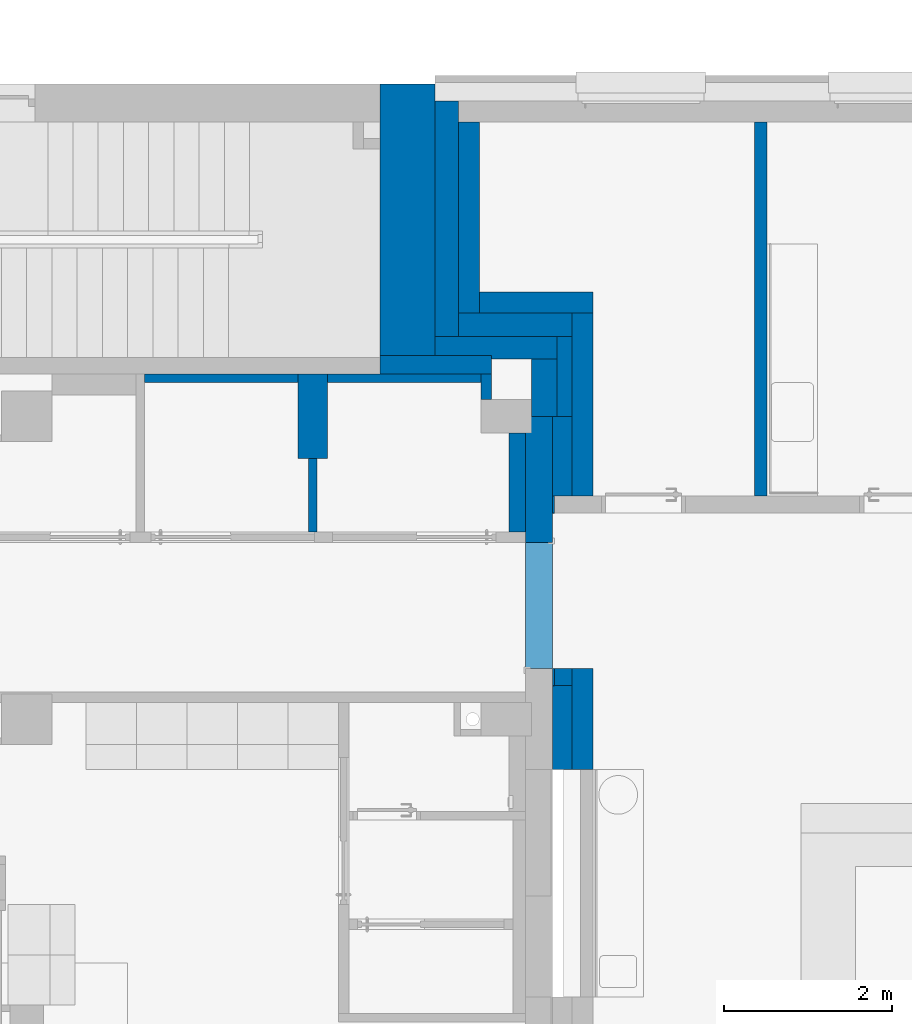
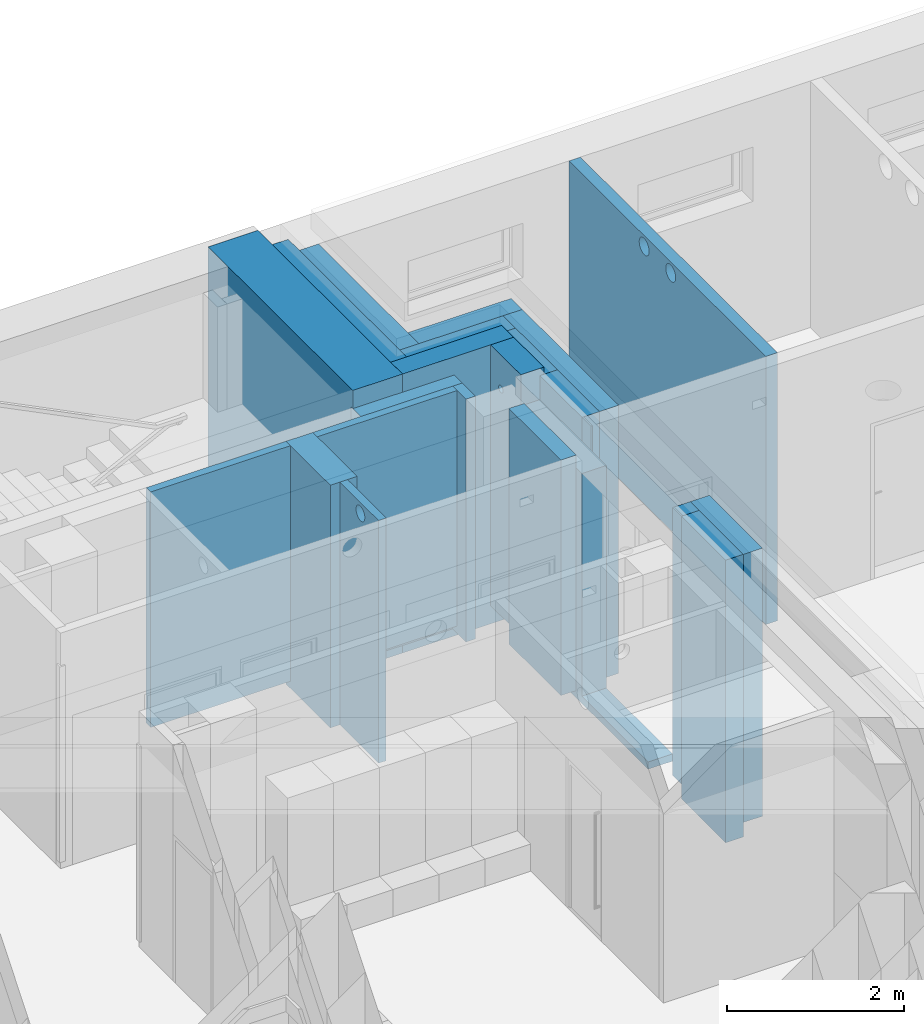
# One storey, part 54 of 140: 24 walls, 10 openings.
"""IFC4 building model written with IfcOpenShell, lengths in metres."""

from ifc_helpers import new_model, entity, si_unit, converted_unit, derived_unit, frame, frame_2d, origin, origin_with_axes, place, context, subcontext, project, spatial, polyline, rectangle, outline, extrude, material, layer, layer_set, layer_usage, element, save


model = new_model("IFC4")

# Units and contexts
model_context = context("Model", 3, precision=1e-05, world=origin())
body_context = subcontext(model_context, "Body", "Model", "MODEL_VIEW")
ifc_project = project(units=[si_unit("LENGTHUNIT", "METRE"), si_unit("AREAUNIT", "SQUARE_METRE"), si_unit("VOLUMEUNIT", "CUBIC_METRE"), si_unit("MASSUNIT", "GRAM", prefix="KILO"), converted_unit("PLANEANGLEUNIT", "DEGREE", entity("IfcPlaneAngleMeasure", 0.0174532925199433), si_unit("PLANEANGLEUNIT", "RADIAN"), dimensions=[0, 0, 0, 0, 0, 0, 0]), derived_unit("THERMALTRANSMITTANCEUNIT", [(si_unit("POWERUNIT", "WATT"), 1), (si_unit("THERMODYNAMICTEMPERATUREUNIT", "KELVIN"), -1), (si_unit("LENGTHUNIT", "METRE"), -2)]), derived_unit("VOLUMETRICFLOWRATEUNIT", [(si_unit("LENGTHUNIT", "METRE"), 3), (converted_unit("TIMEUNIT", "hour", entity("IfcTimeMeasure", 3600.0), si_unit("TIMEUNIT", "SECOND"), dimensions=[0, 0, 1, 0, 0, 0, 0]), -1), (si_unit("LENGTHUNIT", "METRE"), -1)])], contexts=[model_context])

# Site, building, storey
site_placement = place(None, origin())
site = spatial("IfcSite", under=ifc_project, at=site_placement, Name="3. ASŘ", CompositionType="ELEMENT")
building_placement = place(site_placement, origin())
building = spatial("IfcBuilding", under=site, at=building_placement, Name="Pavilon C", CompositionType="ELEMENT")
storey_placement = place(building_placement, origin())
storey = spatial("IfcBuildingStorey", under=building, at=storey_placement, Name="Půdorys 1.NP", CompositionType="ELEMENT", Elevation=0.0)

# Wall, opening
ifc_material_1 = material(Name="PLYNOSILIKÁT")
ifc_layer_1 = layer(ifc_material_1, 0.3)
ifc_layer_set_1 = layer_set([ifc_layer_1])
ifc_layer_usage_1 = layer_usage(ifc_layer_set_1, "AXIS2", "POSITIVE", 0.0)
wall_1_placement = place(storey_placement, frame((50.25, 28.8, -0.1), z_axis=(0.0, 0.0, 1.0), x_axis=(0.0, 1.0, 0.0)))
wall_1 = element("IfcWall", 1, at=wall_1_placement, inside=storey, material=ifc_layer_usage_1, Name="PLYNOSILIKÁT", context=body_context, shape_type="SweptSolid", body=[
    extrude(rectangle(XDim=0.68, YDim=0.3, at=frame_2d((0.34, 0.15), x_axis=(1.0, 0.0))), origin_with_axes(), (0.0, 0.0, 1.0), 3.6),
])
opening_1_placement = place(wall_1_placement, frame((0.400306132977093, 0.0, 3.08000000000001), z_axis=(0.0, 1.0, 0.0), x_axis=(0.0, 0.0, 1.0)))
element("IfcOpeningElement", 2, at=opening_1_placement, cuts=wall_1, Name="Prostup stěnou", ObjectType="Opening", context=body_context, shape_type="SweptSolid", body=[
    extrude(outline(polyline([(0.0499999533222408, 0.0), (0.0447735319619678, 0.000273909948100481), (0.0396043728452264, 0.00109262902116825), (0.0345491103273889, 0.00244718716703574), (0.0296631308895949, 0.00432274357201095), (0.0249999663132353, 0.00669874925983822), (0.0206107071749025, 0.00954917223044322), (0.016543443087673, 0.0128427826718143), (0.0128427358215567, 0.0165434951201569), (0.00954913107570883, 0.0206107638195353), (0.00669871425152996, 0.0250000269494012), (0.00432271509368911, 0.0296631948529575), (0.00244716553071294, 0.0345491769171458), (0.00109261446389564, 0.0396044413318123), (0.000273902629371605, 0.0447736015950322), (0.0, 0.0500000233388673), (0.000273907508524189, 0.0552264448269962), (0.00109262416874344, 0.0603956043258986), (0.00244717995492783, 0.0654508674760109), (0.0043227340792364, 0.0703368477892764), (0.00669873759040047, 0.0750000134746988), (0.00954915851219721, 0.0793892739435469), (0.0128427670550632, 0.0834565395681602), (0.0165434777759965, 0.0871572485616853), (0.0206107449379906, 0.0904508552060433), (0.025000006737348, 0.0933012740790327), (0.0296631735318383, 0.0956772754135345), (0.0345491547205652, 0.0975528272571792), (0.0396044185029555, 0.0989073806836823), (0.0447735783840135, 0.0997260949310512), (0.0499999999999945, 0.1), (0.0552264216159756, 0.0997260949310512), (0.0603955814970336, 0.0989073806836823), (0.0654508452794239, 0.0975528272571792), (0.0703368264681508, 0.0956772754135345), (0.0749999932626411, 0.0933012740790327), (0.0793892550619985, 0.0904508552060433), (0.0834565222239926, 0.0871572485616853), (0.0871572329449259, 0.0834565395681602), (0.0904508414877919, 0.0793892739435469), (0.0933012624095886, 0.0750000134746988), (0.0956772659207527, 0.0703368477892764), (0.0975528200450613, 0.0654508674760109), (0.0989073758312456, 0.0603956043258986), (0.0997260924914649, 0.0552264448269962), (0.0999999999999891, 0.0500000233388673), (0.0997260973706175, 0.0447736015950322), (0.0989073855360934, 0.0396044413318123), (0.0975528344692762, 0.0345491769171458), (0.0956772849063, 0.0296631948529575), (0.0933012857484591, 0.0250000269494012), (0.0904508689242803, 0.0206107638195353), (0.0871572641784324, 0.0165434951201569), (0.083456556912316, 0.0128427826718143), (0.0793892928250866, 0.00954917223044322), (0.0750000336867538, 0.00669874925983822), (0.0703368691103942, 0.00432274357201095), (0.0654508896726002, 0.00244718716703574), (0.0603956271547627, 0.00109262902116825), (0.0552264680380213, 0.000273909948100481), (0.0499999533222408, 0.0)])), origin_with_axes(), (0.0, 0.0, 1.0), 0.3),
])

# Walls
ifc_material_2 = material(Name="ZDIVO Z CDm")
ifc_layer_2 = layer(ifc_material_2, 0.22)
ifc_layer_set_2 = layer_set([ifc_layer_2])
ifc_layer_usage_2 = layer_usage(ifc_layer_set_2, "AXIS2", "POSITIVE", 0.0)
wall_2_placement = place(storey_placement, frame((48.15, 29.3, -0.1)))
element("IfcWall", 3, at=wall_2_placement, inside=storey, material=ifc_layer_usage_2, Name="ZDIVO Z CDm", context=body_context, shape_type="SweptSolid", body=[
    extrude(rectangle(XDim=1.325, YDim=0.22, at=frame_2d((0.6625, 0.11), x_axis=(1.0, 0.0))), origin_with_axes(), (0.0, 0.0, 1.0), 3.35),
])
ifc_material_3 = material(Name="ZDIVO Z CDm")
ifc_layer_3 = layer(ifc_material_3, 0.125)
ifc_layer_set_3 = layer_set([ifc_layer_3])
ifc_layer_usage_3 = layer_usage(ifc_layer_set_3, "AXIS2", "POSITIVE", 0.0)
wall_3_placement = place(storey_placement, frame((49.35, 29.3, -0.1), z_axis=(0.0, 0.0, 1.0), x_axis=(0.0, -1.0, 0.0)))
element("IfcWall", 4, at=wall_3_placement, inside=storey, material=ifc_layer_usage_3, Name="ZDIVO Z CDm", context=body_context, shape_type="SweptSolid", body=[
    extrude(rectangle(XDim=0.299999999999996, YDim=0.125, at=frame_2d((0.149999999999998, 0.0625), x_axis=(1.0, 0.0))), origin_with_axes(), (0.0, 0.0, 1.0), 3.35),
])
ifc_material_4 = material(Name="ZELEZOBETONOVÁ KCE")
ifc_layer_4 = layer(ifc_material_4, 0.649999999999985)
ifc_layer_set_4 = layer_set([ifc_layer_4])
ifc_layer_usage_4 = layer_usage(ifc_layer_set_4, "AXIS2", "POSITIVE", 0.0)
wall_4_placement = place(storey_placement, frame((48.15, 32.75, -0.35), z_axis=(0.0, 0.0, 1.0), x_axis=(2.22506349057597e-15, -1.0, 0.0)))
element("IfcWall", 5, at=wall_4_placement, inside=storey, material=ifc_layer_usage_4, Name="ZELEZOBETONOVÁ KCE", context=body_context, shape_type="SweptSolid", body=[
    extrude(rectangle(XDim=3.27, YDim=0.649999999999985, at=frame_2d((1.635, 0.324999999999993), x_axis=(1.0, 0.0))), origin_with_axes(), (0.0, 0.0, 1.0), 3.85),
])

# Wall, openings
ifc_material_5 = material(Name="ZELEZOBETONOVÁ KCE")
ifc_layer_5 = layer(ifc_material_5, 0.32)
ifc_layer_set_5 = layer_set([ifc_layer_5])
ifc_layer_usage_5 = layer_usage(ifc_layer_set_5, "AXIS2", "POSITIVE", 0.0)
wall_5_placement = place(storey_placement, frame((50.2, 25.8, -0.1), z_axis=(0.0, 0.0, 1.0), x_axis=(0.0, 1.0, 0.0)))
wall_5 = element("IfcWall", 6, at=wall_5_placement, inside=storey, material=ifc_layer_usage_5, Name="ZELEZOBETONOVÁ KCE", context=body_context, shape_type="SweptSolid", body=[
    extrude(rectangle(XDim=3.00000000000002, YDim=0.32, at=frame_2d((1.50000000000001, 0.16), x_axis=(1.0, 0.0))), origin_with_axes(), (0.0, 0.0, 1.0), 3.17),
])
opening_2_placement = place(wall_5_placement, frame((0.0, 0.0, 0.1), z_axis=(0.0, 1.0, 0.0), x_axis=(0.0, 0.0, 1.0)))
element("IfcOpeningElement", 7, at=opening_2_placement, cuts=wall_5, Name="Dveřní otvor", ObjectType="Opening", context=body_context, shape_type="SweptSolid", body=[
    extrude(outline(polyline([(0.0, 1.5), (3.07, 1.5), (3.07, 0.0), (0.0, 0.0), (0.0, 1.5)])), origin_with_axes(), (0.0, 0.0, 1.0), 0.32),
])
opening_3_placement = place(wall_5_placement, frame((2.70000000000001, 0.32, 0.45), z_axis=(0.0, -1.0, 0.0), x_axis=(0.0, 0.0, 1.0)))
element("IfcOpeningElement", 8, at=opening_3_placement, cuts=wall_5, Name="Stěnová nika", ObjectType="Opening", context=body_context, shape_type="SweptSolid", body=[
    extrude(outline(polyline([(0.0, 0.1), (0.25, 0.1), (0.25, 0.0), (0.0, 0.0), (0.0, 0.1)])), origin_with_axes(), (0.0, 0.0, 1.0), 0.32),
])

# Walls
ifc_material_6 = material(Name="ZELEZOBETONOVÁ KCE")
ifc_layer_6 = layer(ifc_material_6, 0.27)
ifc_layer_set_6 = layer_set([ifc_layer_6])
ifc_layer_usage_6 = layer_usage(ifc_layer_set_6, "AXIS2", "POSITIVE", 0.0)
wall_6_placement = place(storey_placement, frame((48.8, 29.48, -0.35)))
element("IfcWall", 9, at=wall_6_placement, inside=storey, material=ifc_layer_usage_6, Name="ZELEZOBETONOVÁ KCE", context=body_context, shape_type="SweptSolid", body=[
    extrude(rectangle(XDim=1.45000000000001, YDim=0.27, at=frame_2d((0.725000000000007, 0.135), x_axis=(1.0, 0.0))), origin_with_axes(), (0.0, 0.0, 1.0), 3.85),
])
ifc_material_7 = material(Name="ZELEZOBETONOVÁ KCE")
ifc_layer_7 = layer(ifc_material_7, 0.25)
ifc_layer_set_7 = layer_set([ifc_layer_7])
ifc_layer_usage_7 = layer_usage(ifc_layer_set_7, "AXIS2", "POSITIVE", -0.125)
wall_7_placement = place(storey_placement, frame((50.68, 24.6, -0.3), z_axis=(0.0, 0.0, 1.0), x_axis=(0.0, 1.0, 0.0)))
element("IfcWall", 10, at=wall_7_placement, inside=storey, material=ifc_layer_usage_7, Name="ZELEZOBETONOVÁ KCE", context=body_context, shape_type="SweptSolid", body=[
    extrude(rectangle(XDim=1.2, YDim=0.25, at=frame_2d((0.6, 0.125), x_axis=(1.0, 0.0))), origin_with_axes(), (0.0, 0.0, 1.0), 3.7),
])

# Wall, openings
ifc_material_8 = material(Name="ZELEZOBETONOVÁ KCE")
ifc_layer_8 = layer(ifc_material_8, 0.25)
ifc_layer_set_8 = layer_set([ifc_layer_8])
ifc_layer_usage_8 = layer_usage(ifc_layer_set_8, "AXIS2", "POSITIVE", -0.125)
wall_8_placement = place(storey_placement, frame((50.68, 27.85, -0.3), z_axis=(0.0, 0.0, 1.0), x_axis=(0.0, 1.0, 0.0)))
wall_8 = element("IfcWall", 11, at=wall_8_placement, inside=storey, material=ifc_layer_usage_8, Name="ZELEZOBETONOVÁ KCE", context=body_context, shape_type="SweptSolid", body=[
    extrude(rectangle(XDim=2.18, YDim=0.25, at=frame_2d((1.09, 0.125), x_axis=(1.0, 0.0))), origin_with_axes(), (0.0, 0.0, 1.0), 3.7),
])
opening_4_placement = place(wall_8_placement, frame((0.529999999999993, 0.0, 0.0), z_axis=(0.0, 1.0, 0.0), x_axis=(0.0, 0.0, 1.0)))
element("IfcOpeningElement", 12, at=opening_4_placement, cuts=wall_8, Name="Stěnová nika", ObjectType="Opening", context=body_context, shape_type="SweptSolid", body=[
    extrude(outline(polyline([(0.0, 1.37), (1.21, 1.37), (1.21, 0.0), (0.0, 0.0), (0.0, 1.37)])), origin_with_axes(), (0.0, 0.0, 1.0), 0.14),
])
opening_5_placement = place(wall_8_placement, frame((0.649999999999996, 0.25, 0.65), z_axis=(0.0, -1.0, 0.0), x_axis=(0.0, 0.0, 1.0)))
element("IfcOpeningElement", 13, at=opening_5_placement, cuts=wall_8, Name="UT", ObjectType="Opening", context=body_context, shape_type="SweptSolid", body=[
    extrude(outline(polyline([(0.0, 0.1), (0.25, 0.1), (0.25, 0.0), (0.0, 0.0), (0.0, 0.1)])), origin_with_axes(), (0.0, 0.0, 1.0), 0.11),
])
opening_6_placement = place(wall_8_placement, frame((1.35030613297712, 7.27595761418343e-15, 3.28000000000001), z_axis=(0.0, 1.0, 0.0), x_axis=(0.0, 0.0, 1.0)))
element("IfcOpeningElement", 14, at=opening_6_placement, cuts=wall_8, Name="ZTI", ObjectType="Opening", context=body_context, shape_type="SweptSolid", body=[
    extrude(outline(polyline([(0.0499999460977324, 0.0), (0.0447735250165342, 0.000273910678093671), (0.0396043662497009, 0.00109263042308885), (0.0345491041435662, 0.00244718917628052), (0.0296631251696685, 0.00432274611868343), (0.0249999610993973, 0.00669875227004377), (0.0206107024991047, 0.00954917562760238), (0.0165434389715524, 0.0128427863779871), (0.0128427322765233, 0.0165434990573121), (0.00954912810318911, 0.0206107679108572), (0.00669871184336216, 0.0250000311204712), (0.00432271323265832, 0.0296631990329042), (0.00244716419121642, 0.0345491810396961), (0.00109261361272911, 0.039604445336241), (0.000273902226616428, 0.0447736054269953), (0.0, 0.0500000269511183), (0.000273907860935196, 0.0552264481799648), (0.0010926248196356, 0.0603956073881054), (0.00244718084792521, 0.0654508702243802), (0.00432273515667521, 0.0703368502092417), (0.00669873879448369, 0.0750000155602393), (0.00954915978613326, 0.0793892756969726), (0.0128427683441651, 0.0834565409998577), (0.0165434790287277, 0.0871572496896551), (0.0206107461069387, 0.0904508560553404), (0.0250000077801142, 0.0933012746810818), (0.0296631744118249, 0.0956772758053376), (0.0345491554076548, 0.0975528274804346), (0.0396044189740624, 0.0989073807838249), (0.0447735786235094, 0.0997260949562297), (0.0499999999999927, 0.1), (0.0552264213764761, 0.0997260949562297), (0.0603955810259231, 0.0989073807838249), (0.0654508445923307, 0.0975528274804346), (0.0703368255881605, 0.0956772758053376), (0.0749999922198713, 0.0933012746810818), (0.0793892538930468, 0.0904508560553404), (0.0834565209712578, 0.0871572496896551), (0.0871572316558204, 0.0834565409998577), (0.0904508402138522, 0.0793892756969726), (0.0933012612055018, 0.0750000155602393), (0.0956772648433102, 0.0703368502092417), (0.0975528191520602, 0.0654508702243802), (0.0989073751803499, 0.0603956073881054), (0.0997260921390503, 0.0552264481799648), (0.0999999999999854, 0.0500000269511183), (0.099726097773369, 0.0447736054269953), (0.0989073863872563, 0.039604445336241), (0.097552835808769, 0.0345491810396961), (0.0956772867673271, 0.0296631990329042), (0.0933012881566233, 0.0250000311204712), (0.0904508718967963, 0.0206107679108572), (0.0871572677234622, 0.0165434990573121), (0.083456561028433, 0.0128427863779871), (0.0793892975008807, 0.00954917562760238), (0.0750000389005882, 0.00669875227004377), (0.0703368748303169, 0.00432274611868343), (0.0654508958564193, 0.00244718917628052), (0.0603956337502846, 0.00109263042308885), (0.0552264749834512, 0.000273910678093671), (0.0499999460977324, 0.0)])), origin_with_axes(), (0.0, 0.0, 1.0), 0.43),
])

# Walls
ifc_material_9 = material(Name="ZELEZOBETONOVÁ KCE")
ifc_layer_9 = layer(ifc_material_9, 0.25)
ifc_layer_set_9 = layer_set([ifc_layer_9])
ifc_layer_usage_9 = layer_usage(ifc_layer_set_9, "AXIS2", "POSITIVE", -0.125)
wall_9_placement = place(storey_placement, frame((50.68, 30.28, -0.3), z_axis=(0.0, 0.0, 1.0), x_axis=(-1.0, 0.0, 0.0)))
element("IfcWall", 15, at=wall_9_placement, inside=storey, material=ifc_layer_usage_9, Name="ZELEZOBETONOVÁ KCE", context=body_context, shape_type="SweptSolid", body=[
    extrude(rectangle(XDim=1.35, YDim=0.25, at=frame_2d((0.675, 0.125), x_axis=(1.0, 0.0))), origin_with_axes(), (0.0, 0.0, 1.0), 3.7),
])
ifc_material_10 = material(Name="ZELEZOBETONOVÁ KCE")
ifc_layer_10 = layer(ifc_material_10, 0.25)
ifc_layer_set_10 = layer_set([ifc_layer_10])
ifc_layer_usage_10 = layer_usage(ifc_layer_set_10, "AXIS2", "POSITIVE", -0.125)
wall_10_placement = place(storey_placement, frame((49.33, 30.03, -0.3), z_axis=(0.0, 0.0, 1.0), x_axis=(0.0, 1.0, 0.0)))
element("IfcWall", 16, at=wall_10_placement, inside=storey, material=ifc_layer_usage_10, Name="ZELEZOBETONOVÁ KCE", context=body_context, shape_type="SweptSolid", body=[
    extrude(rectangle(XDim=2.27, YDim=0.25, at=frame_2d((1.135, 0.125), x_axis=(1.0, 0.0))), origin_with_axes(), (0.0, 0.0, 1.0), 3.7),
])
ifc_material_11 = material(Name="ZELEZOBETONOVÁ KCE")
ifc_layer_11 = layer(ifc_material_11, 0.2)
ifc_layer_set_11 = layer_set([ifc_layer_11])
ifc_layer_usage_11 = layer_usage(ifc_layer_set_11, "AXIS2", "POSITIVE", 0.0)
wall_11_placement = place(storey_placement, frame((50.43, 25.8, -0.3), z_axis=(0.0, 0.0, 1.0), x_axis=(-1.0, 0.0, 0.0)))
element("IfcWall", 17, at=wall_11_placement, inside=storey, material=ifc_layer_usage_11, Name="ZELEZOBETONOVÁ KCE", context=body_context, shape_type="SweptSolid", body=[
    extrude(rectangle(XDim=0.21, YDim=0.2, at=frame_2d((0.105, 0.1), x_axis=(1.0, 0.0))), origin_with_axes(), (0.0, 0.0, 1.0), 3.7),
])
ifc_material_12 = material(Name="EPS")
ifc_layer_12 = layer(ifc_material_12, 0.02)
ifc_layer_set_12 = layer_set([ifc_layer_12])
ifc_layer_usage_12 = layer_usage(ifc_layer_set_12, "AXIS2", "POSITIVE", 0.0)
wall_12_placement = place(storey_placement, frame((50.22, 27.65, -0.3), z_axis=(0.0, 0.0, 1.0), x_axis=(0.0, 1.0, 0.0)))
element("IfcWall", 18, at=wall_12_placement, inside=storey, material=ifc_layer_usage_12, Name="EPS", context=body_context, shape_type="SweptSolid", body=[
    extrude(rectangle(XDim=0.2, YDim=0.02, at=frame_2d((0.1, 0.01), x_axis=(1.0, 0.0))), origin_with_axes(), (0.0, 0.0, 1.0), 3.7),
])
ifc_material_13 = material(Name="EPS")
ifc_layer_13 = layer(ifc_material_13, 0.28)
ifc_layer_set_13 = layer_set([ifc_layer_13])
ifc_layer_usage_13 = layer_usage(ifc_layer_set_13, "AXIS2", "POSITIVE", 0.0)
wall_13_placement = place(storey_placement, frame((49.08, 29.75, -0.5), z_axis=(0.0, 0.0, 1.0), x_axis=(0.0, 1.0, 0.0)))
element("IfcWall", 19, at=wall_13_placement, inside=storey, material=ifc_layer_usage_13, Name="EPS", context=body_context, shape_type="SweptSolid", body=[
    extrude(rectangle(XDim=2.8, YDim=0.28, at=frame_2d((1.4, 0.14), x_axis=(1.0, 0.0))), origin_with_axes(), (0.0, 0.0, 1.0), 3.9),
])
ifc_material_14 = material(Name="EPS")
ifc_layer_14 = layer(ifc_material_14, 0.28)
ifc_layer_set_14 = layer_set([ifc_layer_14])
ifc_layer_usage_14 = layer_usage(ifc_layer_set_14, "AXIS2", "POSITIVE", 0.0)
wall_14_placement = place(storey_placement, frame((50.43, 30.03, -0.5), z_axis=(0.0, 0.0, 1.0), x_axis=(-1.0, 0.0, 0.0)))
element("IfcWall", 20, at=wall_14_placement, inside=storey, material=ifc_layer_usage_14, Name="EPS", context=body_context, shape_type="SweptSolid", body=[
    extrude(rectangle(XDim=1.35, YDim=0.28, at=frame_2d((0.675, 0.14), x_axis=(1.0, 0.0))), origin_with_axes(), (0.0, 0.0, 1.0), 3.9),
])
ifc_material_15 = material(Name="EPS")
ifc_layer_15 = layer(ifc_material_15, 0.18)
ifc_layer_set_15 = layer_set([ifc_layer_15])
ifc_layer_usage_15 = layer_usage(ifc_layer_set_15, "AXIS2", "POSITIVE", 0.0)
wall_15_placement = place(storey_placement, frame((50.43, 28.8, -0.5), z_axis=(0.0, 0.0, 1.0), x_axis=(0.0, 1.0, 0.0)))
element("IfcWall", 21, at=wall_15_placement, inside=storey, material=ifc_layer_usage_15, Name="EPS", context=body_context, shape_type="SweptSolid", body=[
    extrude(rectangle(XDim=0.95, YDim=0.18, at=frame_2d((0.475, 0.09), x_axis=(1.0, 0.0))), origin_with_axes(), (0.0, 0.0, 1.0), 3.9),
])

# Wall, opening
ifc_material_16 = material(Name="EPS")
ifc_layer_16 = layer(ifc_material_16, 0.23)
ifc_layer_set_16 = layer_set([ifc_layer_16])
ifc_layer_usage_16 = layer_usage(ifc_layer_set_16, "AXIS2", "POSITIVE", 0.0)
wall_16_placement = place(storey_placement, frame((50.43, 27.85, -0.5), z_axis=(0.0, 0.0, 1.0), x_axis=(0.0, 1.0, 0.0)))
wall_16 = element("IfcWall", 22, at=wall_16_placement, inside=storey, material=ifc_layer_usage_16, Name="EPS", context=body_context, shape_type="SweptSolid", body=[
    extrude(rectangle(XDim=0.950000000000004, YDim=0.23, at=frame_2d((0.475000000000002, 0.115), x_axis=(1.0, 0.0))), origin_with_axes(), (0.0, 0.0, 1.0), 3.9),
])
opening_7_placement = place(wall_16_placement, frame((0.649999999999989, 0.23, 0.85), z_axis=(0.0, -1.0, 0.0), x_axis=(0.0, 0.0, 1.0)))
element("IfcOpeningElement", 23, at=opening_7_placement, cuts=wall_16, Name="UT", ObjectType="Opening", context=body_context, shape_type="SweptSolid", body=[
    extrude(outline(polyline([(0.0, 0.1), (0.25, 0.1), (0.25, 0.0), (0.0, 0.0), (0.0, 0.1)])), origin_with_axes(), (0.0, 0.0, 1.0), 0.23),
])

# Walls
ifc_material_17 = material(Name="EPS")
ifc_layer_17 = layer(ifc_material_17, 0.23)
ifc_layer_set_17 = layer_set([ifc_layer_17])
ifc_layer_usage_17 = layer_usage(ifc_layer_set_17, "AXIS2", "POSITIVE", 0.0)
wall_17_placement = place(storey_placement, frame((50.43, 24.6, -0.5), z_axis=(0.0, 0.0, 1.0), x_axis=(0.0, 1.0, 0.0)))
element("IfcWall", 24, at=wall_17_placement, inside=storey, material=ifc_layer_usage_17, Name="EPS", context=body_context, shape_type="SweptSolid", body=[
    extrude(rectangle(XDim=1.0, YDim=0.23, at=frame_2d((0.5, 0.115), x_axis=(1.0, 0.0))), origin_with_axes(), (0.0, 0.0, 1.0), 3.9),
])
ifc_material_18 = material(Name="EPS")
ifc_layer_18 = layer(ifc_material_18, 0.02)
ifc_layer_set_18 = layer_set([ifc_layer_18])
ifc_layer_usage_18 = layer_usage(ifc_layer_set_18, "AXIS2", "POSITIVE", 0.0)
wall_18_placement = place(storey_placement, frame((50.22, 25.6, -0.3), z_axis=(0.0, 0.0, 1.0), x_axis=(0.0, 1.0, 0.0)))
element("IfcWall", 25, at=wall_18_placement, inside=storey, material=ifc_layer_usage_18, Name="EPS", context=body_context, shape_type="SweptSolid", body=[
    extrude(rectangle(XDim=0.2, YDim=0.02, at=frame_2d((0.1, 0.01), x_axis=(1.0, 0.0))), origin_with_axes(), (0.0, 0.0, 1.0), 3.7),
])

# Wall, openings
ifc_material_19 = material(Name="SDK - 1 KCE + DVOJITÉ OPLÁŠTĚNÍ")
ifc_layer_19 = layer(ifc_material_19, 0.15)
ifc_layer_set_19 = layer_set([ifc_layer_19])
ifc_layer_usage_19 = layer_usage(ifc_layer_set_19, "AXIS2", "POSITIVE", 0.0)
wall_19_placement = place(storey_placement, frame((52.75, 27.85, -0.3), z_axis=(0.0, 0.0, 1.0), x_axis=(0.0, 1.0, 0.0)))
wall_19 = element("IfcWall", 26, at=wall_19_placement, inside=storey, material=ifc_layer_usage_19, Name="SDK - 1 KCE + DVOJITÉ OPLÁŠTĚNÍ", context=body_context, shape_type="SweptSolid", body=[
    extrude(rectangle(XDim=4.45, YDim=0.15, at=frame_2d((2.225, 0.075), x_axis=(1.0, 0.0))), origin_with_axes(), (0.0, 0.0, 1.0), 3.7),
])
opening_8_placement = place(wall_19_placement, frame((2.6375, 0.0, 3.43750000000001), z_axis=(0.0, 1.0, 0.0), x_axis=(0.0, 0.0, 1.0)))
element("IfcOpeningElement", 27, at=opening_8_placement, cuts=wall_19, Name="VZT", ObjectType="Opening", context=body_context, shape_type="SweptSolid", body=[
    extrude(outline(polyline([(0.112499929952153, 0.0), (0.100740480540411, 0.000616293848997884), (0.0891098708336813, 0.00245840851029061), (0.077735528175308, 0.00550616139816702), (0.0667420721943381, 0.00972616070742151), (0.0562499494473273, 0.0150721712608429), (0.0463741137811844, 0.0214856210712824), (0.0372227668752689, 0.0288962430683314), (0.0288961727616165, 0.0372228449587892), (0.0214855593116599, 0.0463741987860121), (0.0150721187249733, 0.0562500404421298), (0.00972611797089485, 0.0667421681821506), (0.00550612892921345, 0.0777356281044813), (0.00245838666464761, 0.0891099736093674), (0.000616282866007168, 0.100740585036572), (0.0, 0.11250003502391), (0.000616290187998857, 0.124259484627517), (0.00245840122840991, 0.135890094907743), (0.00550615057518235, 0.147264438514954), (0.00972614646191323, 0.158257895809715), (0.0150721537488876, 0.168750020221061), (0.0214856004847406, 0.178625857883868), (0.0288962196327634, 0.187777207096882), (0.0372228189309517, 0.196103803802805), (0.0463741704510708, 0.203514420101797), (0.0562500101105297, 0.209927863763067), (0.0667421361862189, 0.215273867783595), (0.0777355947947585, 0.2194938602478), (0.0891099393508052, 0.22254160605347), (0.10074055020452, 0.224383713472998), (0.112499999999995, 0.225), (0.124259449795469, 0.224383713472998), (0.135890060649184, 0.22254160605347), (0.147264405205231, 0.2194938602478), (0.15825786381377, 0.215273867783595), (0.168749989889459, 0.209927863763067), (0.178625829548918, 0.203514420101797), (0.187777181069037, 0.196103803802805), (0.196103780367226, 0.187777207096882), (0.203514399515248, 0.178625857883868), (0.209927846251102, 0.168750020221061), (0.215273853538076, 0.158257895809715), (0.219493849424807, 0.147264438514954), (0.222541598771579, 0.135890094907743), (0.22438370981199, 0.124259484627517), (0.224999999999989, 0.11250003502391), (0.224383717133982, 0.100740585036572), (0.222541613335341, 0.0891099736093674), (0.219493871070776, 0.0777356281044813), (0.215273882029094, 0.0667421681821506), (0.209927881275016, 0.0562500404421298), (0.203514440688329, 0.0463741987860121), (0.196103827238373, 0.0372228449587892), (0.18777723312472, 0.0288962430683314), (0.178625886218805, 0.0214856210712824), (0.168750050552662, 0.0150721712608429), (0.158257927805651, 0.00972616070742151), (0.147264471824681, 0.00550616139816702), (0.135890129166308, 0.00245840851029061), (0.124259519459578, 0.000616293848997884), (0.112499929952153, 0.0)])), origin_with_axes(), (0.0, 0.0, 1.0), 0.15),
])
opening_9_placement = place(wall_19_placement, frame((2.0375, 0.0, 3.43750000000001), z_axis=(0.0, 1.0, 0.0), x_axis=(0.0, 0.0, 1.0)))
element("IfcOpeningElement", 28, at=opening_9_placement, cuts=wall_19, Name="VZT", ObjectType="Opening", context=body_context, shape_type="SweptSolid", body=[
    extrude(outline(polyline([(0.112499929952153, 0.0), (0.100740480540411, 0.000616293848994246), (0.0891098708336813, 0.00245840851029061), (0.077735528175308, 0.00550616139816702), (0.0667420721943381, 0.00972616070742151), (0.0562499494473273, 0.0150721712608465), (0.0463741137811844, 0.0214856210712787), (0.0372227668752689, 0.028896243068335), (0.0288961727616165, 0.0372228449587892), (0.0214855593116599, 0.0463741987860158), (0.0150721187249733, 0.0562500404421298), (0.00972611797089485, 0.0667421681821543), (0.00550612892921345, 0.0777356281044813), (0.00245838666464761, 0.0891099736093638), (0.000616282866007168, 0.100740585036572), (0.0, 0.11250003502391), (0.000616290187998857, 0.124259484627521), (0.00245840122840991, 0.135890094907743), (0.00550615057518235, 0.147264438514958), (0.00972614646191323, 0.158257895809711), (0.0150721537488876, 0.168750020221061), (0.0214856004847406, 0.178625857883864), (0.0288962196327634, 0.187777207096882), (0.0372228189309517, 0.196103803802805), (0.0463741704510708, 0.203514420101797), (0.0562500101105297, 0.209927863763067), (0.0667421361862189, 0.215273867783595), (0.0777355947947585, 0.219493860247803), (0.0891099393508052, 0.22254160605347), (0.10074055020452, 0.224383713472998), (0.112499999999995, 0.225), (0.124259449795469, 0.224383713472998), (0.135890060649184, 0.22254160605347), (0.147264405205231, 0.219493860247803), (0.15825786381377, 0.215273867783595), (0.168749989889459, 0.209927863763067), (0.178625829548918, 0.203514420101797), (0.187777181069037, 0.196103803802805), (0.196103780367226, 0.187777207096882), (0.203514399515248, 0.178625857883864), (0.209927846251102, 0.168750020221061), (0.215273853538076, 0.158257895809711), (0.219493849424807, 0.147264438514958), (0.222541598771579, 0.135890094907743), (0.22438370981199, 0.124259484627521), (0.224999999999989, 0.11250003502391), (0.224383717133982, 0.100740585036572), (0.222541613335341, 0.0891099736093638), (0.219493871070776, 0.0777356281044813), (0.215273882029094, 0.0667421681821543), (0.209927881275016, 0.0562500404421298), (0.203514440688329, 0.0463741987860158), (0.196103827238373, 0.0372228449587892), (0.18777723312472, 0.028896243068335), (0.178625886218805, 0.0214856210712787), (0.168750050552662, 0.0150721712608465), (0.158257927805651, 0.00972616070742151), (0.147264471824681, 0.00550616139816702), (0.135890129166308, 0.00245840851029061), (0.124259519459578, 0.000616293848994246), (0.112499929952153, 0.0)])), origin_with_axes(), (0.0, 0.0, 1.0), 0.15),
])

# Walls
ifc_material_20 = material(Name="SDK INSTAL. PŘDSTĚNA VYSOKÁ")
ifc_layer_20 = layer(ifc_material_20, 0.2)
ifc_layer_set_20 = layer_set([ifc_layer_20])
ifc_layer_usage_20 = layer_usage(ifc_layer_set_20, "AXIS2", "POSITIVE", 0.0)
wall_20_placement = place(storey_placement, frame((49.88, 27.425, 0.0), z_axis=(0.0, 0.0, 1.0), x_axis=(0.0, 1.0, 0.0)))
element("IfcWall", 29, at=wall_20_placement, inside=storey, material=ifc_layer_usage_20, Name="SDK INSTAL. PŘDSTĚNA VYSOKÁ", context=body_context, shape_type="SweptSolid", body=[
    extrude(rectangle(XDim=1.17500000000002, YDim=0.2, at=frame_2d((0.587500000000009, 0.1), x_axis=(1.0, 0.0))), origin_with_axes(), (0.0, 0.0, 1.0), 3.25),
])
ifc_material_21 = material(Name="SDK INSTAL. PŘDSTĚNA VYSOKÁ")
ifc_layer_21 = layer(ifc_material_21, 0.1)
ifc_layer_set_21 = layer_set([ifc_layer_21])
ifc_layer_usage_21 = layer_usage(ifc_layer_set_21, "AXIS2", "POSITIVE", 0.0)
wall_21_placement = place(storey_placement, frame((47.175, 29.3, 0.0), z_axis=(0.0, 0.0, 1.0), x_axis=(-1.0, 0.0, 0.0)))
element("IfcWall", 30, at=wall_21_placement, inside=storey, material=ifc_layer_usage_21, Name="SDK INSTAL. PŘDSTĚNA VYSOKÁ", context=body_context, shape_type="SweptSolid", body=[
    extrude(rectangle(XDim=1.825, YDim=0.1, at=frame_2d((0.9125, 0.05), x_axis=(1.0, 0.0))), origin_with_axes(), (0.0, 0.0, 1.0), 3.25),
])
ifc_material_22 = material(Name="SDK INSTAL. PŘDSTĚNA VYSOKÁ")
ifc_layer_22 = layer(ifc_material_22, 0.1)
ifc_layer_set_22 = layer_set([ifc_layer_22])
ifc_layer_usage_22 = layer_usage(ifc_layer_set_22, "AXIS2", "POSITIVE", 0.0)
wall_22_placement = place(storey_placement, frame((49.35, 29.3, 0.0), z_axis=(0.0, 0.0, 1.0), x_axis=(-1.0, 0.0, 0.0)))
element("IfcWall", 31, at=wall_22_placement, inside=storey, material=ifc_layer_usage_22, Name="SDK INSTAL. PŘDSTĚNA VYSOKÁ", context=body_context, shape_type="SweptSolid", body=[
    extrude(rectangle(XDim=1.825, YDim=0.1, at=frame_2d((0.9125, 0.05), x_axis=(1.0, 0.0))), origin_with_axes(), (0.0, 0.0, 1.0), 3.25),
])

# Wall, opening
ifc_material_23 = material(Name="SDK - 1 KCE + DVOJITÉ OPLÁŠTĚNÍ")
ifc_layer_23 = layer(ifc_material_23, 0.1)
ifc_layer_set_23 = layer_set([ifc_layer_23])
ifc_layer_usage_23 = layer_usage(ifc_layer_set_23, "AXIS2", "POSITIVE", -0.05)
wall_23_placement = place(storey_placement, frame((47.4, 27.425, -0.1), z_axis=(0.0, 0.0, 1.0), x_axis=(0.0, 1.0, 0.0)))
wall_23 = element("IfcWall", 32, at=wall_23_placement, inside=storey, material=ifc_layer_usage_23, Name="SDK - 1 KCE + DVOJITÉ OPLÁŠTĚNÍ", context=body_context, shape_type="SweptSolid", body=[
    extrude(rectangle(XDim=0.875, YDim=0.1, at=frame_2d((0.4375, 0.05), x_axis=(1.0, 0.0))), origin_with_axes(), (0.0, 0.0, 1.0), 3.35),
])
opening_10_placement = place(wall_23_placement, frame((0.310000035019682, 0.0, 3.1), z_axis=(0.0, 1.0, 0.0), x_axis=(0.0, 0.0, 1.0)))
element("IfcOpeningElement", 33, at=opening_10_placement, cuts=wall_23, Name="VZT", ObjectType="Opening", context=body_context, shape_type="SweptSolid", body=[
    extrude(outline(polyline([(0.099999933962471, 0.0), (0.089547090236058, 0.000547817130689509), (0.0792087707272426, 0.00218525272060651), (0.0690982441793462, 0.00489436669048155), (0.0593262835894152, 0.00864547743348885), (0.0499999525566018, 0.0133974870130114), (0.0412214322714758, 0.0190983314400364), (0.0330869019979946, 0.0256855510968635), (0.0256854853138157, 0.0330869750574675), (0.0190982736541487, 0.0412215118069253), (0.0133974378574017, 0.0500000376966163), (0.00864543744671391, 0.0593263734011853), (0.00489433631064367, 0.0690983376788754), (0.00218523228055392, 0.0792088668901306), (0.000547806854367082, 0.0895471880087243), (0.0, 0.1000000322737), (0.000547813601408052, 0.110452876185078), (0.00218524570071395, 0.120791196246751), (0.00489435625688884, 0.130901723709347), (0.00864546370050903, 0.140673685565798), (0.0133974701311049, 0.150000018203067), (0.0190983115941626, 0.158778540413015), (0.0256855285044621, 0.166913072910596), (0.0330869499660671, 0.174314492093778), (0.041221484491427, 0.180901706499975), (0.0500000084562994, 0.186602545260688), (0.0593263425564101, 0.191354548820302), (0.0690983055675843, 0.195105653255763), (0.0792088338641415, 0.197814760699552), (0.0895471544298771, 0.199452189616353), (0.0999999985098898, 0.2), (0.110452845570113, 0.199452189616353), (0.120791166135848, 0.197814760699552), (0.130901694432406, 0.195105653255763), (0.14067365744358, 0.191354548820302), (0.149999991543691, 0.186602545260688), (0.158778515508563, 0.180901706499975), (0.166913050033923, 0.174314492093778), (0.174314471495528, 0.166913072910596), (0.180901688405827, 0.158778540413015), (0.186602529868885, 0.150000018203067), (0.191354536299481, 0.140673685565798), (0.195105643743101, 0.130901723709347), (0.197814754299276, 0.120791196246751), (0.199452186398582, 0.110452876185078), (0.19999999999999, 0.1000000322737), (0.199452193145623, 0.0895471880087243), (0.197814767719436, 0.0792088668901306), (0.195105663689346, 0.0690983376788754), (0.191354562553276, 0.0593263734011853), (0.186602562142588, 0.0500000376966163), (0.180901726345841, 0.0412215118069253), (0.174314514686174, 0.0330869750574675), (0.166913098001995, 0.0256855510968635), (0.158778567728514, 0.0190983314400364), (0.150000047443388, 0.0133974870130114), (0.140673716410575, 0.00864547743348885), (0.130901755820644, 0.00489436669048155), (0.120791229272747, 0.00218525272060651), (0.110452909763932, 0.000547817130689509), (0.099999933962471, 0.0)])), origin_with_axes(), (0.0, 0.0, 1.0), 0.1),
])

# Wall
ifc_material_24 = material(Name="SDK - 2 KCE + DVOJITÉ OPLÁŠTĚNÍ")
ifc_layer_24 = layer(ifc_material_24, 0.35)
ifc_layer_set_24 = layer_set([ifc_layer_24])
ifc_layer_usage_24 = layer_usage(ifc_layer_set_24, "AXIS2", "POSITIVE", 0.0)
wall_24_placement = place(storey_placement, frame((47.175, 29.3, -0.1), z_axis=(0.0, 0.0, 1.0), x_axis=(0.0, -1.0, 0.0)))
element("IfcWall", 34, at=wall_24_placement, inside=storey, material=ifc_layer_usage_24, Name="SDK - 2 KCE + DVOJITÉ OPLÁŠTĚNÍ", context=body_context, shape_type="SweptSolid", body=[
    extrude(rectangle(XDim=1.0, YDim=0.35, at=frame_2d((0.5, 0.175), x_axis=(1.0, 0.0))), origin_with_axes(), (0.0, 0.0, 1.0), 3.35),
])

save(model, "model.ifc")
